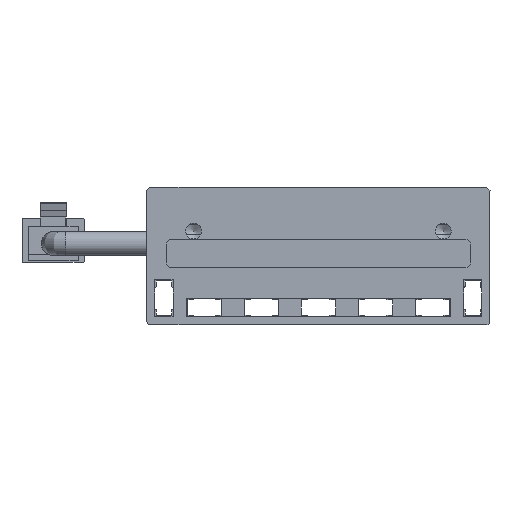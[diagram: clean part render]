
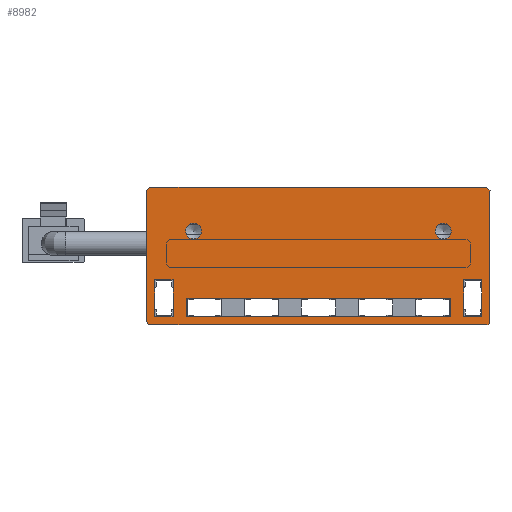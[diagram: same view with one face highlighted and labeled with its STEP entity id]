
A CAD part, front view. The second image highlights one B-rep face of the part: STEP entity #8982.
In plain terms, the highlighted planar face has unit normal (0, -1, 0).
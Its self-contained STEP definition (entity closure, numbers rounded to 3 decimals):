
#72=FACE_BOUND('',#1382,.T.);
#73=FACE_BOUND('',#1383,.T.);
#74=FACE_BOUND('',#1384,.T.);
#75=FACE_BOUND('',#1385,.T.);
#76=FACE_BOUND('',#1386,.T.);
#453=CIRCLE('',#9739,1.265);
#455=CIRCLE('',#9743,1.265);
#457=CIRCLE('',#9759,0.5);
#459=CIRCLE('',#9767,0.5);
#913=FACE_OUTER_BOUND('',#1381,.T.);
#1381=EDGE_LOOP('',(#8141,#8142,#8143,#8144,#8145,#8146,#8147,#8148));
#1382=EDGE_LOOP('',(#8149));
#1383=EDGE_LOOP('',(#8150));
#1384=EDGE_LOOP('',(#8151,#8152,#8153,#8154));
#1385=EDGE_LOOP('',(#8155,#8156,#8157,#8158));
#1386=EDGE_LOOP('',(#8159,#8160,#8161,#8162));
#2379=LINE('',#14772,#3408);
#2382=LINE('',#14778,#3411);
#2385=LINE('',#14784,#3414);
#2388=LINE('',#14788,#3417);
#2391=LINE('',#14796,#3420);
#2394=LINE('',#14802,#3423);
#2397=LINE('',#14808,#3426);
#2400=LINE('',#14812,#3429);
#2403=LINE('',#14820,#3432);
#2406=LINE('',#14826,#3435);
#2409=LINE('',#14832,#3438);
#2412=LINE('',#14836,#3441);
#2415=LINE('',#14844,#3444);
#2419=LINE('',#14856,#3448);
#2422=LINE('',#14862,#3451);
#2425=LINE('',#14868,#3454);
#2428=LINE('',#14874,#3457);
#2431=LINE('',#14880,#3460);
#3408=VECTOR('',#12148,10.);
#3411=VECTOR('',#12153,10.);
#3414=VECTOR('',#12158,10.);
#3417=VECTOR('',#12163,10.);
#3420=VECTOR('',#12168,10.);
#3423=VECTOR('',#12173,10.);
#3426=VECTOR('',#12178,10.);
#3429=VECTOR('',#12183,10.);
#3432=VECTOR('',#12188,10.);
#3435=VECTOR('',#12193,10.);
#3438=VECTOR('',#12198,10.);
#3441=VECTOR('',#12203,10.);
#3444=VECTOR('',#12208,10.);
#3448=VECTOR('',#12220,10.);
#3451=VECTOR('',#12225,10.);
#3454=VECTOR('',#12230,10.);
#3457=VECTOR('',#12235,10.);
#3460=VECTOR('',#12240,10.);
#4280=VERTEX_POINT('',#14753);
#4283=VERTEX_POINT('',#14762);
#4286=VERTEX_POINT('',#14769);
#4287=VERTEX_POINT('',#14771);
#4289=VERTEX_POINT('',#14777);
#4291=VERTEX_POINT('',#14783);
#4294=VERTEX_POINT('',#14793);
#4295=VERTEX_POINT('',#14795);
#4297=VERTEX_POINT('',#14801);
#4299=VERTEX_POINT('',#14807);
#4302=VERTEX_POINT('',#14817);
#4303=VERTEX_POINT('',#14819);
#4305=VERTEX_POINT('',#14825);
#4307=VERTEX_POINT('',#14831);
#4310=VERTEX_POINT('',#14841);
#4311=VERTEX_POINT('',#14843);
#4313=VERTEX_POINT('',#14849);
#4315=VERTEX_POINT('',#14855);
#4317=VERTEX_POINT('',#14861);
#4319=VERTEX_POINT('',#14867);
#4321=VERTEX_POINT('',#14873);
#4323=VERTEX_POINT('',#14879);
#5551=EDGE_CURVE('',#4280,#4280,#453,.T.);
#5555=EDGE_CURVE('',#4283,#4283,#455,.T.);
#5559=EDGE_CURVE('',#4287,#4286,#2379,.T.);
#5562=EDGE_CURVE('',#4289,#4287,#2382,.T.);
#5565=EDGE_CURVE('',#4291,#4289,#2385,.T.);
#5568=EDGE_CURVE('',#4286,#4291,#2388,.T.);
#5571=EDGE_CURVE('',#4295,#4294,#2391,.T.);
#5574=EDGE_CURVE('',#4297,#4295,#2394,.T.);
#5577=EDGE_CURVE('',#4299,#4297,#2397,.T.);
#5580=EDGE_CURVE('',#4294,#4299,#2400,.T.);
#5583=EDGE_CURVE('',#4303,#4302,#2403,.T.);
#5586=EDGE_CURVE('',#4305,#4303,#2406,.T.);
#5589=EDGE_CURVE('',#4307,#4305,#2409,.T.);
#5592=EDGE_CURVE('',#4302,#4307,#2412,.T.);
#5595=EDGE_CURVE('',#4311,#4310,#2415,.T.);
#5598=EDGE_CURVE('',#4313,#4311,#457,.T.);
#5601=EDGE_CURVE('',#4315,#4313,#2419,.T.);
#5604=EDGE_CURVE('',#4317,#4315,#2422,.T.);
#5607=EDGE_CURVE('',#4319,#4317,#2425,.T.);
#5610=EDGE_CURVE('',#4321,#4319,#2428,.T.);
#5613=EDGE_CURVE('',#4323,#4321,#2431,.T.);
#5616=EDGE_CURVE('',#4310,#4323,#459,.T.);
#8141=ORIENTED_EDGE('',*,*,#5616,.T.);
#8142=ORIENTED_EDGE('',*,*,#5613,.T.);
#8143=ORIENTED_EDGE('',*,*,#5610,.T.);
#8144=ORIENTED_EDGE('',*,*,#5607,.T.);
#8145=ORIENTED_EDGE('',*,*,#5604,.T.);
#8146=ORIENTED_EDGE('',*,*,#5601,.T.);
#8147=ORIENTED_EDGE('',*,*,#5598,.T.);
#8148=ORIENTED_EDGE('',*,*,#5595,.T.);
#8149=ORIENTED_EDGE('',*,*,#5551,.T.);
#8150=ORIENTED_EDGE('',*,*,#5555,.T.);
#8151=ORIENTED_EDGE('',*,*,#5592,.T.);
#8152=ORIENTED_EDGE('',*,*,#5589,.T.);
#8153=ORIENTED_EDGE('',*,*,#5586,.T.);
#8154=ORIENTED_EDGE('',*,*,#5583,.T.);
#8155=ORIENTED_EDGE('',*,*,#5580,.T.);
#8156=ORIENTED_EDGE('',*,*,#5577,.T.);
#8157=ORIENTED_EDGE('',*,*,#5574,.T.);
#8158=ORIENTED_EDGE('',*,*,#5571,.T.);
#8159=ORIENTED_EDGE('',*,*,#5568,.T.);
#8160=ORIENTED_EDGE('',*,*,#5565,.T.);
#8161=ORIENTED_EDGE('',*,*,#5562,.T.);
#8162=ORIENTED_EDGE('',*,*,#5559,.T.);
#8527=PLANE('',#9768);
#8982=ADVANCED_FACE('',(#913,#72,#73,#74,#75,#76),#8527,.T.);
#9739=AXIS2_PLACEMENT_3D('',#14754,#12131,#12132);
#9743=AXIS2_PLACEMENT_3D('',#14763,#12141,#12142);
#9759=AXIS2_PLACEMENT_3D('',#14850,#12214,#12215);
#9767=AXIS2_PLACEMENT_3D('',#14884,#12246,#12247);
#9768=AXIS2_PLACEMENT_3D('',#14885,#12248,#12249);
#12131=DIRECTION('center_axis',(0.,1.,0.));
#12132=DIRECTION('ref_axis',(0.,0.,-1.));
#12141=DIRECTION('center_axis',(0.,1.,0.));
#12142=DIRECTION('ref_axis',(0.,0.,-1.));
#12148=DIRECTION('',(0.,0.,-1.));
#12153=DIRECTION('',(1.,0.,0.));
#12158=DIRECTION('',(0.,0.,1.));
#12163=DIRECTION('',(-1.,0.,0.));
#12168=DIRECTION('',(0.,0.,-1.));
#12173=DIRECTION('',(1.,0.,0.));
#12178=DIRECTION('',(0.,0.,1.));
#12183=DIRECTION('',(-1.,0.,0.));
#12188=DIRECTION('',(0.,0.,-1.));
#12193=DIRECTION('',(1.,0.,0.));
#12198=DIRECTION('',(0.,0.,1.));
#12203=DIRECTION('',(-1.,0.,0.));
#12208=DIRECTION('',(1.,0.,0.));
#12214=DIRECTION('center_axis',(0.,-1.,0.));
#12215=DIRECTION('ref_axis',(-1.,0.,0.));
#12220=DIRECTION('',(0.,0.,-1.));
#12225=DIRECTION('',(-0.707,0.,-0.707));
#12230=DIRECTION('',(-1.,0.,0.));
#12235=DIRECTION('',(-0.707,0.,0.707));
#12240=DIRECTION('',(0.,0.,1.));
#12246=DIRECTION('center_axis',(0.,-1.,0.));
#12247=DIRECTION('ref_axis',(0.,0.,-1.));
#12248=DIRECTION('center_axis',(0.,-1.,0.));
#12249=DIRECTION('ref_axis',(1.,0.,0.));
#14753=CARTESIAN_POINT('',(-20.,-285.,16.265));
#14754=CARTESIAN_POINT('Origin',(-20.,-285.,15.));
#14762=CARTESIAN_POINT('',(20.,-285.,16.265));
#14763=CARTESIAN_POINT('Origin',(20.,-285.,15.));
#14769=CARTESIAN_POINT('',(21.2,-285.,1.3));
#14771=CARTESIAN_POINT('',(21.2,-285.,4.2));
#14772=CARTESIAN_POINT('',(21.2,-285.,4.2));
#14777=CARTESIAN_POINT('',(-21.2,-285.,4.2));
#14778=CARTESIAN_POINT('',(-21.2,-285.,4.2));
#14783=CARTESIAN_POINT('',(-21.2,-285.,1.3));
#14784=CARTESIAN_POINT('',(-21.2,-285.,1.3));
#14788=CARTESIAN_POINT('',(21.2,-285.,1.3));
#14793=CARTESIAN_POINT('',(26.2,-285.,1.3));
#14795=CARTESIAN_POINT('',(26.2,-285.,7.2));
#14796=CARTESIAN_POINT('',(26.2,-285.,7.2));
#14801=CARTESIAN_POINT('',(23.3,-285.,7.2));
#14802=CARTESIAN_POINT('',(23.3,-285.,7.2));
#14807=CARTESIAN_POINT('',(23.3,-285.,1.3));
#14808=CARTESIAN_POINT('',(23.3,-285.,1.3));
#14812=CARTESIAN_POINT('',(26.2,-285.,1.3));
#14817=CARTESIAN_POINT('',(-23.3,-285.,1.3));
#14819=CARTESIAN_POINT('',(-23.3,-285.,7.2));
#14820=CARTESIAN_POINT('',(-23.3,-285.,7.2));
#14825=CARTESIAN_POINT('',(-26.2,-285.,7.2));
#14826=CARTESIAN_POINT('',(-26.2,-285.,7.2));
#14831=CARTESIAN_POINT('',(-26.2,-285.,1.3));
#14832=CARTESIAN_POINT('',(-26.2,-285.,1.3));
#14836=CARTESIAN_POINT('',(-23.3,-285.,1.3));
#14841=CARTESIAN_POINT('',(27.,-285.,0.));
#14843=CARTESIAN_POINT('',(-27.,-285.,0.));
#14844=CARTESIAN_POINT('',(-22.,-285.,0.));
#14849=CARTESIAN_POINT('',(-27.5,-285.,0.5));
#14850=CARTESIAN_POINT('Origin',(-27.,-285.,0.5));
#14855=CARTESIAN_POINT('',(-27.5,-285.,21.5));
#14856=CARTESIAN_POINT('',(-27.5,-285.,21.5));
#14861=CARTESIAN_POINT('',(-27.,-285.,22.));
#14862=CARTESIAN_POINT('',(-27.,-285.,22.));
#14867=CARTESIAN_POINT('',(27.,-285.,22.));
#14868=CARTESIAN_POINT('',(27.,-285.,22.));
#14873=CARTESIAN_POINT('',(27.5,-285.,21.5));
#14874=CARTESIAN_POINT('',(27.5,-285.,21.5));
#14879=CARTESIAN_POINT('',(27.5,-285.,0.5));
#14880=CARTESIAN_POINT('',(27.5,-285.,21.5));
#14884=CARTESIAN_POINT('Origin',(27.,-285.,0.5));
#14885=CARTESIAN_POINT('Origin',(0.,-285.,11.));
